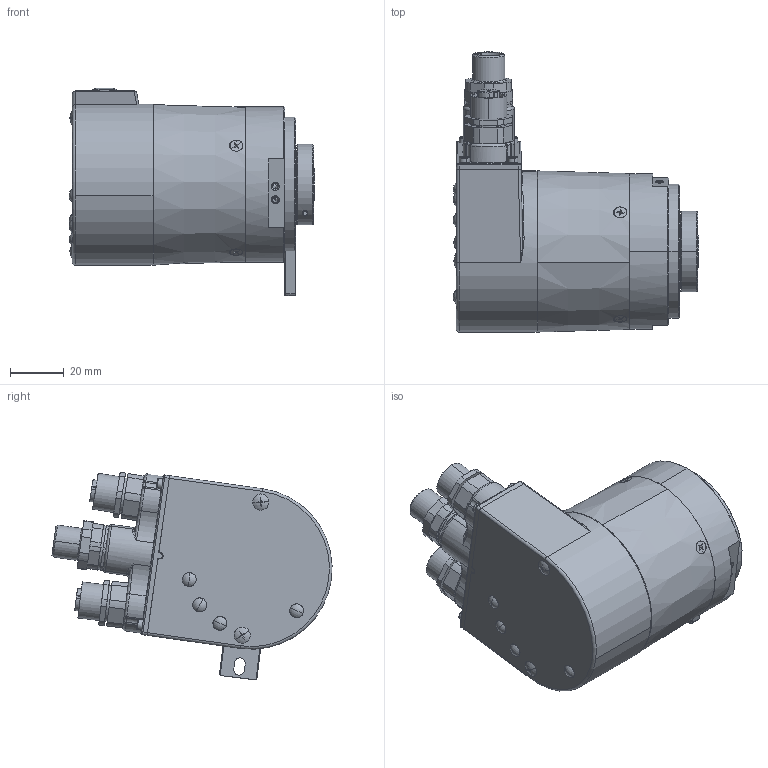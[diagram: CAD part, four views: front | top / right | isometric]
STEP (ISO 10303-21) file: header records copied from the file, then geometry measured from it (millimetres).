
FILE_DESCRIPTION (( 'STEP AP203' ), '1' );
FILE_NAME ('8.5888.13C2.C112.STEP', '2012-08-15T11:00:18', ( 'Hodot' ), ( '' ), 'SwSTEP 2.0', 'SolidWorks 2012', '' );
FILE_SCHEMA (( 'CONFIG_CONTROL_DESIGN' ));
Length unit declared in the file: millimetre
Products named in the file (1): 8.5888.13C2.C112
Bounding box: 91.4 x 104.23 x 77.16 mm (x, y, z)
Volume: 118309.9 mm3; surface area: 82961.3 mm2
Topology: 31 solids, 33 shells, 2761 faces, 7317 edges, 4636 vertices
Faces by surface type: cylinder 1113, plane 897, cone 390, torus 194, bspline 111, sphere 56
Entity records: 93838 total; most frequent: CARTESIAN_POINT 26068, DIRECTION 14383, ORIENTED_EDGE 14354, EDGE_CURVE 7177, AXIS2_PLACEMENT_3D 5724, VERTEX_POINT 4600, CIRCLE 3073, EDGE_LOOP 2979
